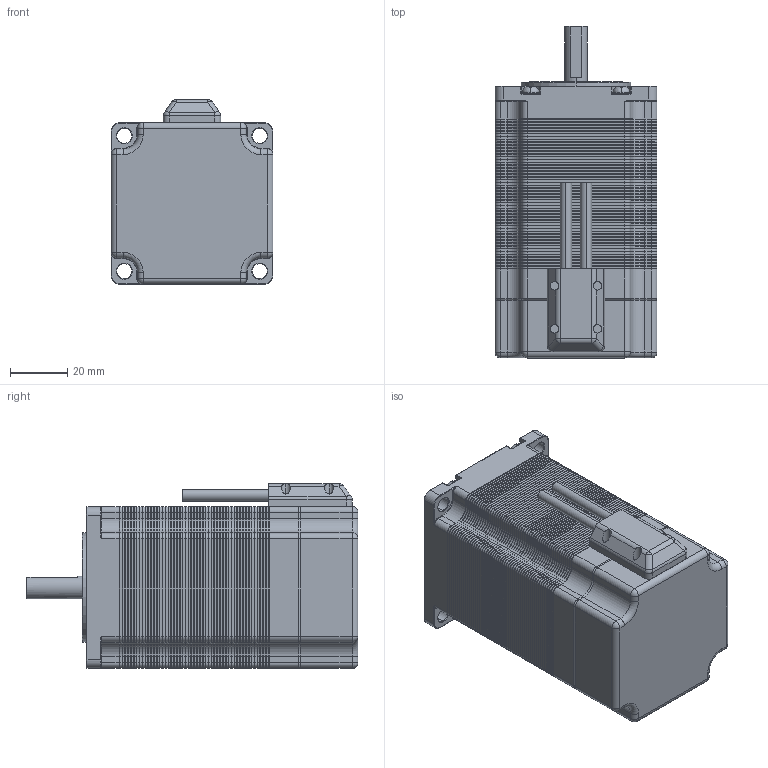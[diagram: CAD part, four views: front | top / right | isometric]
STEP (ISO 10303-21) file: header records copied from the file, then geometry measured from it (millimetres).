
FILE_DESCRIPTION (( 'STEP AP214' ), '1' );
FILE_NAME ('Nema 23 Stepper Motor length_76_mm_8mm_ENC.STEP', '2020-11-11T16:03:15', ( 'Moofasta' ), ( '' ), 'SwSTEP 2.0', 'SolidWorks 2020', '' );
FILE_SCHEMA (( 'AUTOMOTIVE_DESIGN' ));
Length unit declared in the file: millimetre
Products named in the file (1): Nema 23 Stepper Motor length_76_mm_8mm_ENC
Bounding box: 56.3 x 115.5 x 64.3 mm (x, y, z)
Volume: 276764.1 mm3; surface area: 331403 mm2
Topology: 60 solids, 61 shells, 4353 faces, 9929 edges, 5681 vertices
Faces by surface type: plane 2157, cone 1276, cylinder 798, torus 94, sphere 20, bspline 8
Entity records: 164345 total; most frequent: DIRECTION 21517, CARTESIAN_POINT 20512, ORIENTED_EDGE 19806, EDGE_CURVE 9903, AXIS2_PLACEMENT_3D 7358, LINE 6801, VECTOR 6801, VERTEX_POINT 5681
